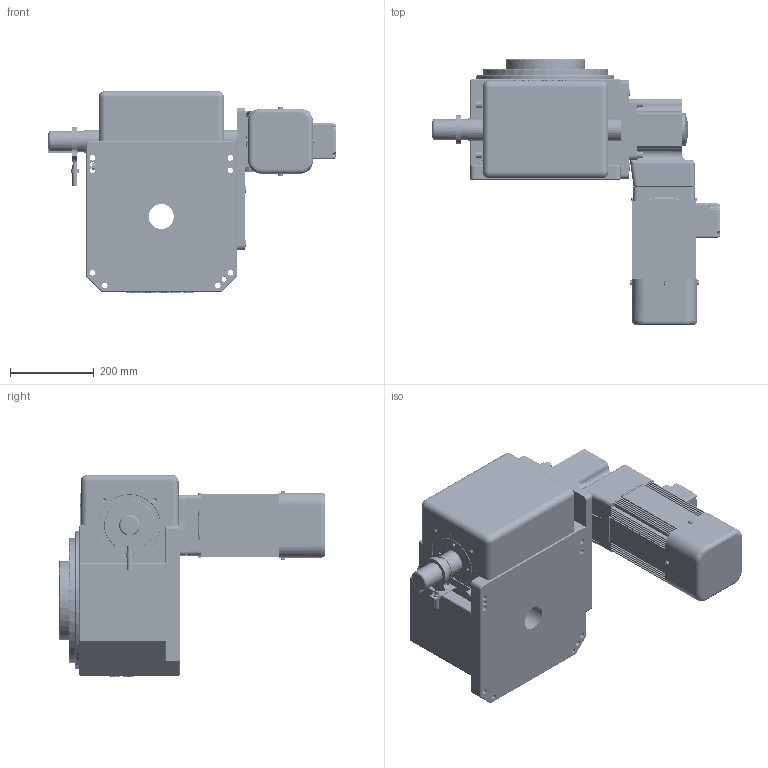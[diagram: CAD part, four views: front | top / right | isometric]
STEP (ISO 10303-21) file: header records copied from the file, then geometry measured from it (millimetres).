
FILE_DESCRIPTION (( 'STEP AP214' ), '1' );
FILE_NAME ('ER-RU180DT英锐凸轮分割器固定盘壳体法兰面销孔3D垂直直联式右侧JY(电话15062628977)AA.STEP', '2023-01-03T07:47:22', ( '微软用户' ), ( '微软中国' ), 'SwSTEP 2.0', 'SolidWorks 2017', '' );
FILE_SCHEMA (( 'AUTOMOTIVE_DESIGN' ));
Length unit declared in the file: millimetre
Products named in the file (1): ER-RU180DT英锐凸轮分割器固定盘壳体法兰面销孔3D垂直直联式右侧JY(电话15062628977)AA
Bounding box: 686.63 x 638.5 x 483 mm (x, y, z)
Volume: 51557032.1 mm3; surface area: 1556604.9 mm2
Topology: 3 solids, 11 shells, 3118 faces, 8309 edges, 5353 vertices
Faces by surface type: plane 1322, cylinder 1082, bspline 474, cone 220, torus 16, sphere 4
Entity records: 215811 total; most frequent: CARTESIAN_POINT 138061, ORIENTED_EDGE 16466, DIRECTION 11679, EDGE_CURVE 8233, VERTEX_POINT 5353, LINE 4659, VECTOR 4659, AXIS2_PLACEMENT_3D 3510
